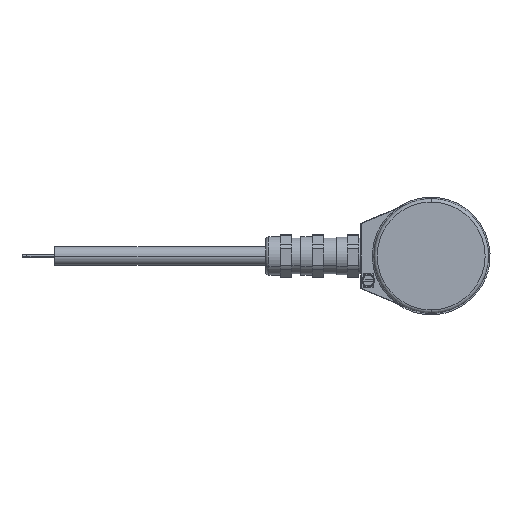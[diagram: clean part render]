
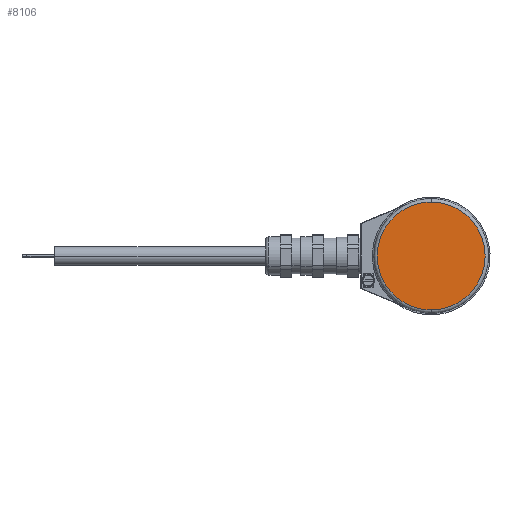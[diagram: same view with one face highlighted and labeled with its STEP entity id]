
A CAD part, left-side view. The second image highlights one B-rep face of the part: STEP entity #8106.
In plain terms, the highlighted planar face has unit normal (-1, 0, 0).
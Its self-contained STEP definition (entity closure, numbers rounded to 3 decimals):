
#1070 = DIRECTION ( 'NONE',  ( 0., 0., 1. ) ) ;
#1105 = DIRECTION ( 'NONE',  ( 1., 0., 0. ) ) ;
#1179 = CARTESIAN_POINT ( 'NONE',  ( -70.2, 0., 0. ) ) ;
#1737 = CIRCLE ( 'NONE', #5961, 33. ) ;
#2636 = CARTESIAN_POINT ( 'NONE',  ( -70.2, 0., -33. ) ) ;
#2722 = AXIS2_PLACEMENT_3D ( 'NONE', #1179, #1105, #1070 ) ;
#4042 = DIRECTION ( 'NONE',  ( 1., 0., 0. ) ) ;
#4534 = DIRECTION ( 'NONE',  ( 1., 0., 0. ) ) ;
#5059 = EDGE_CURVE ( 'NONE', #20568, #19288, #1737, .T. ) ;
#5961 = AXIS2_PLACEMENT_3D ( 'NONE', #15065, #4534, #15044 ) ;
#6619 = EDGE_CURVE ( 'NONE', #19288, #20568, #20075, .T. ) ;
#7311 = PLANE ( 'NONE',  #11519 ) ;
#8106 = ADVANCED_FACE ( 'NONE', ( #12790 ), #7311, .F. ) ;
#11519 = AXIS2_PLACEMENT_3D ( 'NONE', #16971, #4042, #15389 ) ;
#12790 = FACE_OUTER_BOUND ( 'NONE', #19778, .T. ) ;
#15044 = DIRECTION ( 'NONE',  ( 0., 0., 1. ) ) ;
#15065 = CARTESIAN_POINT ( 'NONE',  ( -70.2, 0., 0. ) ) ;
#15389 = DIRECTION ( 'NONE',  ( 0., 0., 1. ) ) ;
#15431 = ORIENTED_EDGE ( 'NONE', *, *, #6619, .F. ) ;
#15625 = CARTESIAN_POINT ( 'NONE',  ( -70.2, 0., 33. ) ) ;
#16971 = CARTESIAN_POINT ( 'NONE',  ( -70.2, -33., 0. ) ) ;
#19288 = VERTEX_POINT ( 'NONE', #2636 ) ;
#19602 = ORIENTED_EDGE ( 'NONE', *, *, #5059, .F. ) ;
#19778 = EDGE_LOOP ( 'NONE', ( #19602, #15431 ) ) ;
#20075 = CIRCLE ( 'NONE', #2722, 33. ) ;
#20568 = VERTEX_POINT ( 'NONE', #15625 ) ;
